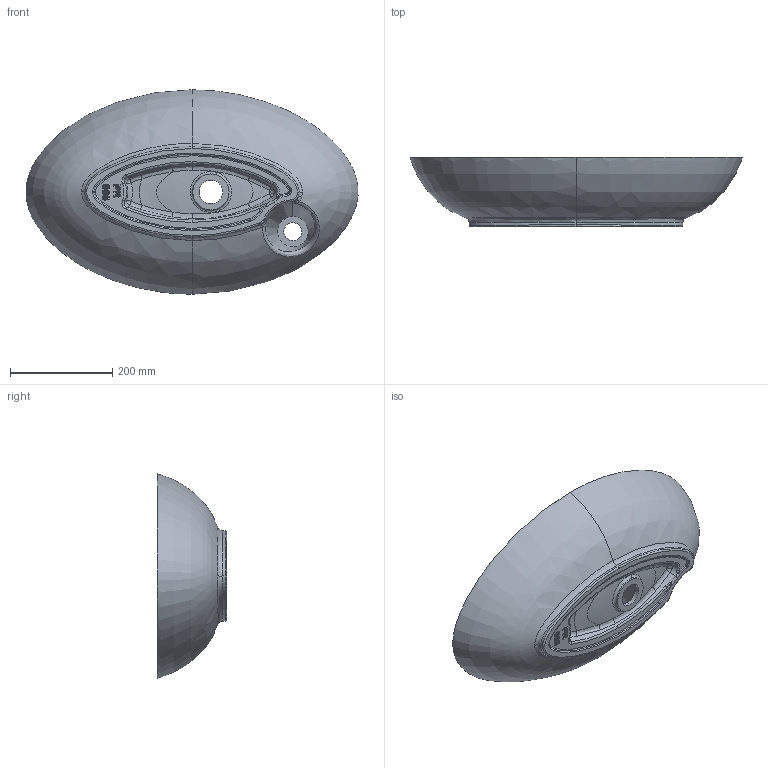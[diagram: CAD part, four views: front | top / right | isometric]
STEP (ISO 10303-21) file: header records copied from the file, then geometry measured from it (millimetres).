
FILE_DESCRIPTION (( 'STEP AP203' ), '1' );
FILE_NAME ('PR065.STEP', '2022-04-06T13:49:43', ( '' ), ( '' ), 'SwSTEP 2.0', 'SolidWorks 2021', '' );
FILE_SCHEMA (( 'CONFIG_CONTROL_DESIGN' ));
Length unit declared in the file: millimetre
Products named in the file (1): PR065
Bounding box: 649.1 x 135 x 399.69 mm (x, y, z)
Volume: 4298910.1 mm3; surface area: 910912.3 mm2
Topology: 1 solids, 4 shells, 501 faces, 1168 edges, 656 vertices
Faces by surface type: bspline 265, cylinder 91, plane 57, torus 46, sphere 31, cone 11
Entity records: 56524 total; most frequent: CARTESIAN_POINT 47099, ORIENTED_EDGE 2278, DIRECTION 1423, EDGE_CURVE 1139, VERTEX_POINT 653, AXIS2_PLACEMENT_3D 580, B_SPLINE_CURVE_WITH_KNOTS 532, EDGE_LOOP 518
